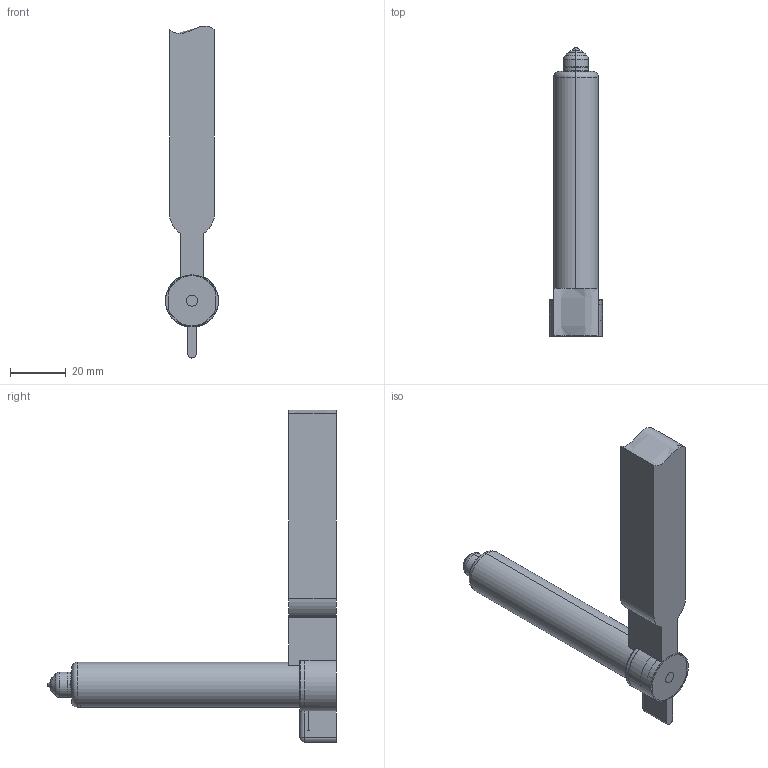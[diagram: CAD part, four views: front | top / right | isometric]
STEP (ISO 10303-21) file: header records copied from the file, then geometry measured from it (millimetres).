
FILE_DESCRIPTION((''),'2;1');
FILE_NAME('SK031003_ASM','2020-04-06T',('benoit'),(''),'PRO/ENGINEER BY PARAMETRIC TECHNOLOGY CORPORATION, 2007450','PRO/ENGINEER BY PARAMETRIC TECHNOLOGY CORPORATION, 2007450','');
FILE_SCHEMA(('CONFIG_CONTROL_DESIGN'));
Length unit declared in the file: millimetre
Products named in the file (7): MB031003; BFC010317; TP156001; 10X1E; GOUPILLE-3-10; SK-POCHE-PP-103; SK031003_ASM
Assembly tree (6 placements, depth 2):
  SK031003_ASM
    MB031003
    BFC010317
    TP156001
    10X1E
    GOUPILLE-3-10
    SK-POCHE-PP-103
Bounding box: 18.99 x 103.27 x 118.86 mm (x, y, z)
Volume: 54104.2 mm3; surface area: 27256.1 mm2
Topology: 7 solids, 7 shells, 247 faces, 595 edges, 359 vertices
Faces by surface type: plane 86, cylinder 84, cone 35, bspline 25, torus 11, sphere 5, extrusion 1
Entity records: 10595 total; most frequent: CARTESIAN_POINT 4791, DIRECTION 1209, ORIENTED_EDGE 1170, EDGE_CURVE 585, AXIS2_PLACEMENT_3D 462, VERTEX_POINT 359, VECTOR 285, LINE 284
